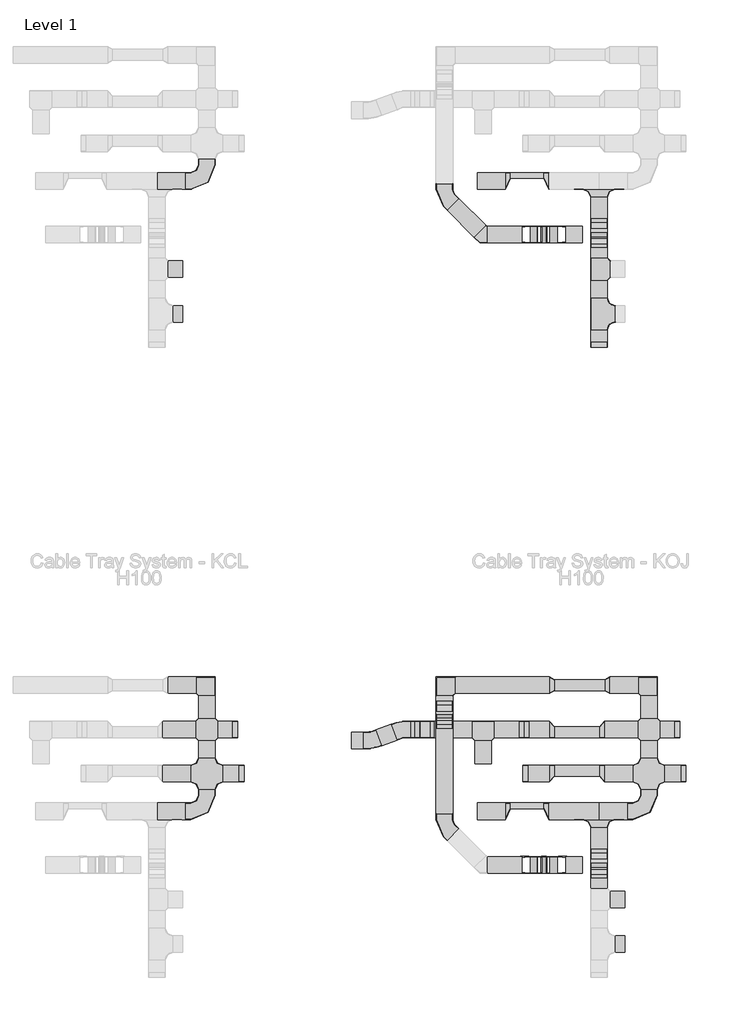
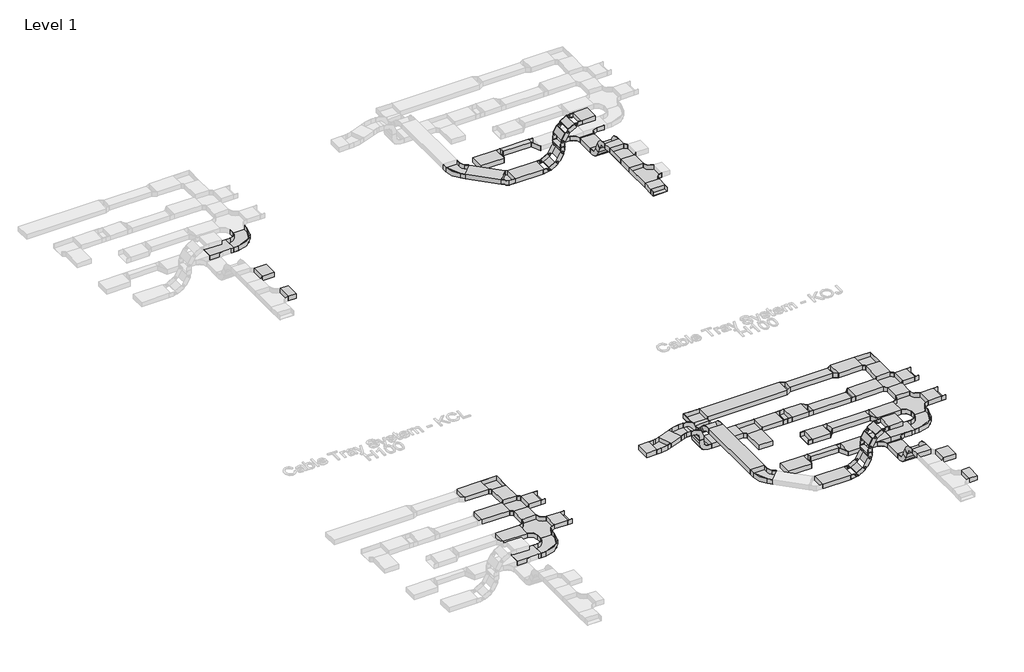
# One storey, part 23 of 106: 70 cable carrier fittings, 55 cable carrier segments.
"""IFC4 building model written with IfcOpenShell, lengths in millimetres."""

from ifc_helpers import new_model, si_unit, frame, origin, place, context, project, spatial, polyline, outline, extrude, transform, mapped, element, save
from components import cable_carrier_fitting_cb057536, cable_carrier_fitting_d4f283aa, cable_carrier_fitting_389af67d, cable_carrier_fitting_ab346bf8, cable_carrier_fitting_c163f1ca, cable_carrier_fitting_32826c86, cable_carrier_fitting_42195290, cable_carrier_fitting_5f227b89, cable_carrier_fitting_7ef83dec, cable_carrier_fitting_1d3f857e, cable_carrier_fitting_24d58ad9, cable_carrier_fitting_81c76d70, cable_carrier_fitting_e69bf5bc, cable_carrier_fitting_b7b75895, cable_carrier_fitting_0afdfe74, cable_carrier_fitting_3a6d649d, cable_carrier_fitting_2d5aa353, cable_carrier_fitting_83230dc4, cable_carrier_fitting_3cbe9e62, cable_carrier_fitting_c86838e9, cable_carrier_fitting_21169ac5, cable_carrier_fitting_985dcf24, cable_carrier_fitting_0a0ebc2e, cable_carrier_fitting_46bfce34, cable_carrier_fitting_f50788b4, cable_carrier_fitting_851eb94e, cable_carrier_fitting_844d2b92, cable_carrier_fitting_c0e00dde

model = new_model("IFC4")

# Units and contexts
model_context = context("Model", 3, world=origin())
ifc_project = project(units=[si_unit("LENGTHUNIT", "METRE", prefix="MILLI")], contexts=[model_context])

# Site, building, storey
site = spatial("IfcSite", under=ifc_project)
building = spatial("IfcBuilding", under=site)
storey = spatial("IfcBuildingStorey", under=building, Name="Level 1", Elevation=0.0)

# Cable carrier fittings
placement = place(None, origin())
cable_carrier_fitting_shape = cable_carrier_fitting_cb057536(model_context)
element("IfcCableCarrierFitting", 1, ObjectType="BAKS_BEND_Adjustable vertical bend element_EL : ELP_H100", at=placement, inside=storey, context=model_context, shape_type="MappedRepresentation", body=[
    mapped(cable_carrier_fitting_shape, transform((166633.2340999, 54731.3714214, 322.7153903), x_axis=(0.4999999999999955, 0.0, 0.8660254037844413), y_axis=(0.0, 1.0, 0.0), z_axis=(-0.8660254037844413, 0.0, 0.4999999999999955))),
])
element("IfcCableCarrierFitting", 2, ObjectType="BAKS_BEND_Adjustable vertical bend element_EL : ELP_H100", at=placement, inside=storey, context=model_context, shape_type="MappedRepresentation", body=[
    mapped(cable_carrier_fitting_shape, transform((166436.5219776, 54731.3714214, 223.0), x_axis=(0.8660254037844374, 0.0, 0.5000000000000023), y_axis=(0.0, 1.0, 0.0), z_axis=(-0.5000000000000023, 0.0, 0.8660254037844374))),
])
element("IfcCableCarrierFitting", 3, ObjectType="BAKS_BEND_Adjustable vertical bend element_EL : ELP_H100", at=placement, inside=storey, context=model_context, shape_type="MappedRepresentation", body=[
    mapped(cable_carrier_fitting_shape, transform((166841.4494902, 54731.3714214, 936.9011537), x_axis=(0.8660254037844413, 0.0, 0.4999999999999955), y_axis=(0.0, -1.0, 0.0), z_axis=(0.4999999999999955, 0.0, -0.8660254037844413))),
])
element("IfcCableCarrierFitting", 4, ObjectType="BAKS_BEND_Adjustable vertical bend element_EL : ELP_H100", at=placement, inside=storey, context=model_context, shape_type="MappedRepresentation", body=[
    mapped(cable_carrier_fitting_shape, transform((166741.7340999, 54731.3714214, 740.1890314), x_axis=(0.5000000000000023, 0.0, 0.8660254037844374), y_axis=(0.0, -1.0, 0.0), z_axis=(0.8660254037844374, 0.0, -0.5000000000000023))),
])
element("IfcCableCarrierFitting", 5, ObjectType="BAKS_BEND_Adjustable vertical bend element_EL : ELP_H100", at=placement, inside=storey, context=model_context, shape_type="MappedRepresentation", body=[
    mapped(cable_carrier_fitting_shape, transform((166633.2340999, 43331.3714214, 322.7153903), x_axis=(0.4999999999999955, 0.0, 0.8660254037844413), y_axis=(0.0, 1.0, 0.0), z_axis=(-0.8660254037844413, 0.0, 0.4999999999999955))),
])
element("IfcCableCarrierFitting", 6, ObjectType="BAKS_BEND_Adjustable vertical bend element_EL : ELP_H100", at=placement, inside=storey, context=model_context, shape_type="MappedRepresentation", body=[
    mapped(cable_carrier_fitting_shape, transform((166436.5219776, 43331.3714214, 223.0), x_axis=(0.8660254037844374, 0.0, 0.5000000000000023), y_axis=(0.0, 1.0, 0.0), z_axis=(-0.5000000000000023, 0.0, 0.8660254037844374))),
])
element("IfcCableCarrierFitting", 7, ObjectType="BAKS_BEND_Adjustable vertical bend element_EL : ELP_H100", at=placement, inside=storey, context=model_context, shape_type="MappedRepresentation", body=[
    mapped(cable_carrier_fitting_shape, transform((166841.4494902, 43331.3714214, 936.9011537), x_axis=(0.8660254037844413, 0.0, 0.4999999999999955), y_axis=(0.0, -1.0, 0.0), z_axis=(0.4999999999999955, 0.0, -0.8660254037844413))),
])
element("IfcCableCarrierFitting", 8, ObjectType="BAKS_BEND_Adjustable vertical bend element_EL : ELP_H100", at=placement, inside=storey, context=model_context, shape_type="MappedRepresentation", body=[
    mapped(cable_carrier_fitting_shape, transform((166741.7340999, 43331.3714214, 740.1890314), x_axis=(0.5000000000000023, 0.0, 0.8660254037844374), y_axis=(0.0, -1.0, 0.0), z_axis=(0.8660254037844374, 0.0, -0.5000000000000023))),
])
cable_carrier_fitting_2_shape = cable_carrier_fitting_d4f283aa(model_context)
element("IfcCableCarrierFitting", 9, ObjectType="BAKS_Reducer : RK(S/L/P)J_H100", at=placement, inside=storey, context=model_context, shape_type="MappedRepresentation", body=[
    mapped(cable_carrier_fitting_2_shape, transform((161211.8329462, 45780.8714214, 0.0), x_axis=(-1.0, 0.0, 0.0), y_axis=(0.0, -1.0, 0.0), z_axis=(0.0, 0.0, 1.0))),
])
element("IfcCableCarrierFitting", 10, ObjectType="BAKS_Reducer : RK(S/L/P)J_H100", at=placement, inside=storey, context=model_context, shape_type="MappedRepresentation", body=[
    mapped(cable_carrier_fitting_2_shape, transform((161325.8329462, 44980.8714214, 0.0), x_axis=(-1.0, 0.0, 0.0), y_axis=(0.0, -1.0, 0.0), z_axis=(0.0, 0.0, 1.0))),
])
element("IfcCableCarrierFitting", 11, ObjectType="BAKS_Reducer : RK(S/L/P)J_H100", at=placement, inside=storey, context=model_context, shape_type="MappedRepresentation", body=[
    mapped(cable_carrier_fitting_2_shape, transform((166399.3329462, 45780.8714214, 0.0), x_axis=(1.0, 0.0, 0.0), y_axis=(0.0, 1.0, 0.0), z_axis=(0.0, 0.0, 1.0))),
])
element("IfcCableCarrierFitting", 12, ObjectType="BAKS_Reducer : RK(S/L/P)J_H100", at=placement, inside=storey, context=model_context, shape_type="MappedRepresentation", body=[
    mapped(cable_carrier_fitting_2_shape, transform((166399.3329462, 45780.8714214, 0.0), x_axis=(-1.0, 0.0, 0.0), y_axis=(0.0, -1.0, 0.0), z_axis=(0.0, 0.0, 1.0))),
])
element("IfcCableCarrierFitting", 13, ObjectType="BAKS_Reducer : RK(S/L/P)J_H100", at=placement, inside=storey, context=model_context, shape_type="MappedRepresentation", body=[
    mapped(cable_carrier_fitting_2_shape, transform((166377.8329462, 44980.8714214, 0.0), x_axis=(1.0, 0.0, 0.0), y_axis=(0.0, 1.0, 0.0), z_axis=(0.0, 0.0, 1.0))),
])
element("IfcCableCarrierFitting", 14, ObjectType="BAKS_Reducer : RK(S/L/P)J_H100", at=placement, inside=storey, context=model_context, shape_type="MappedRepresentation", body=[
    mapped(cable_carrier_fitting_2_shape, transform((169211.8329462, 45780.8714214, 0.0), x_axis=(-1.0, 0.0, 0.0), y_axis=(0.0, -1.0, 0.0), z_axis=(0.0, 0.0, 1.0))),
])
element("IfcCableCarrierFitting", 15, ObjectType="BAKS_Reducer : RK(S/L/P)J_H100", at=placement, inside=storey, context=model_context, shape_type="MappedRepresentation", body=[
    mapped(cable_carrier_fitting_2_shape, transform((169325.8329462, 44980.8714214, 0.0), x_axis=(-1.0, 0.0, 0.0), y_axis=(0.0, -1.0, 0.0), z_axis=(0.0, 0.0, 1.0))),
])
cable_carrier_fitting_3_shape = cable_carrier_fitting_389af67d(model_context)
element("IfcCableCarrierFitting", 16, ObjectType="BAKS_Reducer : RK(S/L/P)J_H100", at=placement, inside=storey, context=model_context, shape_type="MappedRepresentation", body=[
    mapped(cable_carrier_fitting_3_shape, transform((166856.8329462, 46580.8714214, 0.0), x_axis=(1.0, 0.0, 0.0), y_axis=(0.0, 1.0, 0.0), z_axis=(0.0, 0.0, 1.0))),
])
cable_carrier_fitting_4_shape = cable_carrier_fitting_ab346bf8(model_context)
element("IfcCableCarrierFitting", 17, ObjectType="BAKS_Reducer : RK(S/L/P)J_H100", at=placement, inside=storey, context=model_context, shape_type="MappedRepresentation", body=[
    mapped(cable_carrier_fitting_4_shape, transform((167856.8329462, 46580.8714214, 0.0), x_axis=(1.0, 0.0, 0.0), y_axis=(0.0, 1.0, 0.0), z_axis=(0.0, 0.0, 1.0))),
])
cable_carrier_fitting_5_shape = cable_carrier_fitting_c163f1ca(model_context)
element("IfcCableCarrierFitting", 18, ObjectType="BAKS_Reducer : RK(S/L/P)J_H100", at=placement, inside=storey, context=model_context, shape_type="MappedRepresentation", body=[
    mapped(cable_carrier_fitting_5_shape, transform((167761.8329462, 45730.8714214, 0.0), x_axis=(1.0, 0.0, 0.0), y_axis=(0.0, 1.0, 0.0), z_axis=(0.0, 0.0, 1.0))),
])
element("IfcCableCarrierFitting", 19, ObjectType="BAKS_Reducer : RK(S/L/P)J_H100", at=placement, inside=storey, context=model_context, shape_type="MappedRepresentation", body=[
    mapped(cable_carrier_fitting_5_shape, transform((166951.8329462, 45030.8714214, 0.0), x_axis=(-1.0, 0.0, 0.0), y_axis=(0.0, -1.0, 0.0), z_axis=(0.0, 0.0, 1.0))),
])
cable_carrier_fitting_6_shape = cable_carrier_fitting_32826c86(model_context)
element("IfcCableCarrierFitting", 20, ObjectType="BAKS_Reducer : RK(S/L/P)J_H100", at=placement, inside=storey, context=model_context, shape_type="MappedRepresentation", body=[
    mapped(cable_carrier_fitting_6_shape, transform((166951.8329462, 45730.8714214, 0.0), x_axis=(-1.0, 0.0, 0.0), y_axis=(0.0, -1.0, 0.0), z_axis=(0.0, 0.0, 1.0))),
])
element("IfcCableCarrierFitting", 21, ObjectType="BAKS_Reducer : RK(S/L/P)J_H100", at=placement, inside=storey, context=model_context, shape_type="MappedRepresentation", body=[
    mapped(cable_carrier_fitting_6_shape, transform((167761.8329462, 45030.8714214, 0.0), x_axis=(1.0, 0.0, 0.0), y_axis=(0.0, 1.0, 0.0), z_axis=(0.0, 0.0, 1.0))),
])
cable_carrier_fitting_7_shape = cable_carrier_fitting_42195290(model_context)
element("IfcCableCarrierFitting", 22, ObjectType="BAKS_Horizontal bend : KKJ/KKMJ_H100", at=placement, inside=storey, context=model_context, shape_type="MappedRepresentation", body=[
    mapped(cable_carrier_fitting_7_shape, transform((160656.8329462, 46580.8714214, 0.0), x_axis=(0.0, 1.0, 0.0), y_axis=(-1.0, 0.0, 0.0), z_axis=(0.0, 0.0, 1.0))),
])
element("IfcCableCarrierFitting", 23, ObjectType="BAKS_Horizontal bend : KKJ/KKMJ_H100", at=placement, inside=storey, context=model_context, shape_type="MappedRepresentation", body=[
    mapped(cable_carrier_fitting_7_shape, transform((168656.8329462, 46580.8714214, 0.0), x_axis=(0.0, 1.0, 0.0), y_axis=(-1.0, 0.0, 0.0), z_axis=(0.0, 0.0, 1.0))),
])
element("IfcCableCarrierFitting", 24, ObjectType="BAKS_Horizontal bend : KKJ/KKMJ_H100", at=placement, inside=storey, context=model_context, shape_type="MappedRepresentation", body=[
    mapped(cable_carrier_fitting_7_shape, transform((164956.8329462, 46580.8714214, 0.0), x_axis=(-1.0, 0.0, 0.0), y_axis=(0.0, -1.0, 0.0), z_axis=(0.0, 0.0, 1.0))),
])
cable_carrier_fitting_8_shape = cable_carrier_fitting_5f227b89(model_context)
element("IfcCableCarrierFitting", 25, ObjectType="BAKS_Horizontal cross over : CZKJ_H100", at=placement, inside=storey, context=model_context, shape_type="MappedRepresentation", body=[
    mapped(cable_carrier_fitting_8_shape, transform((160656.8329462, 45780.8714214, 0.0), x_axis=(0.0, -1.0, 0.0), y_axis=(1.0, 0.0, 0.0), z_axis=(0.0, 0.0, 1.0))),
])
element("IfcCableCarrierFitting", 26, ObjectType="BAKS_Horizontal cross over : CZKJ_H100", at=placement, inside=storey, context=model_context, shape_type="MappedRepresentation", body=[
    mapped(cable_carrier_fitting_8_shape, transform((168656.8329462, 45780.8714214, 0.0), x_axis=(0.0, -1.0, 0.0), y_axis=(1.0, 0.0, 0.0), z_axis=(0.0, 0.0, 1.0))),
])
cable_carrier_fitting_9_shape = cable_carrier_fitting_7ef83dec(model_context)
element("IfcCableCarrierFitting", 27, ObjectType="BAKS_Horizontal cross over radius : CZKPJ_H100", at=placement, inside=storey, context=model_context, shape_type="MappedRepresentation", body=[
    mapped(cable_carrier_fitting_9_shape, transform((160656.8329462, 44980.8714214, 0.0), x_axis=(0.0, -1.0, 0.0), y_axis=(1.0, 0.0, 0.0), z_axis=(0.0, 0.0, 1.0))),
])
element("IfcCableCarrierFitting", 28, ObjectType="BAKS_Horizontal cross over radius : CZKPJ_H100", at=placement, inside=storey, context=model_context, shape_type="MappedRepresentation", body=[
    mapped(cable_carrier_fitting_9_shape, transform((168656.8329462, 44980.8714214, 0.0), x_axis=(0.0, -1.0, 0.0), y_axis=(1.0, 0.0, 0.0), z_axis=(0.0, 0.0, 1.0))),
])
cable_carrier_fitting_10_shape = cable_carrier_fitting_1d3f857e(model_context)
element("IfcCableCarrierFitting", 29, ObjectType="BAKS_Horizontal bend radius : KKPJ/KKMPJ_H100", at=placement, inside=storey, context=model_context, shape_type="MappedRepresentation", body=[
    mapped(cable_carrier_fitting_10_shape, transform((164956.8329462, 44030.8714214, 235.0), x_axis=(0.0, -1.0, 0.0), y_axis=(1.0, 0.0, 0.0), z_axis=(0.0, 0.0, 1.0))),
])
cable_carrier_fitting_11_shape = cable_carrier_fitting_24d58ad9(model_context)
element("IfcCableCarrierFitting", 30, ObjectType="BAKS_Horizontal bend radius : KKPJ/KKMPJ_H100", at=placement, inside=storey, context=model_context, shape_type="MappedRepresentation", body=[
    mapped(cable_carrier_fitting_11_shape, transform((160656.8329462, 55699.8714214, 0.0), x_axis=(1.0, 0.0, 0.0), y_axis=(0.0, 1.0, 0.0), z_axis=(0.0, 0.0, 1.0))),
])
element("IfcCableCarrierFitting", 31, ObjectType="BAKS_Horizontal bend radius : KKPJ/KKMPJ_H100", at=placement, inside=storey, context=model_context, shape_type="MappedRepresentation", body=[
    mapped(cable_carrier_fitting_11_shape, transform((160656.8329462, 44299.8714214, 0.0), x_axis=(1.0, 0.0, 0.0), y_axis=(0.0, 1.0, 0.0), z_axis=(0.0, 0.0, 1.0))),
])
element("IfcCableCarrierFitting", 32, ObjectType="BAKS_Horizontal bend radius : KKPJ/KKMPJ_H100", at=placement, inside=storey, context=model_context, shape_type="MappedRepresentation", body=[
    mapped(cable_carrier_fitting_11_shape, transform((168656.8329462, 44299.8714214, 0.0), x_axis=(1.0, 0.0, 0.0), y_axis=(0.0, 1.0, 0.0), z_axis=(0.0, 0.0, 1.0))),
])
cable_carrier_fitting_12_shape = cable_carrier_fitting_81c76d70(model_context)
element("IfcCableCarrierFitting", 33, ObjectType="BAKS_Horizontal addon tee : TKDJ_H100", at=placement, inside=storey, context=model_context, shape_type="MappedRepresentation", body=[
    mapped(cable_carrier_fitting_12_shape, transform((167753.8329462, 55699.8714214, 0.0), x_axis=(1.0, 0.0, 0.0), y_axis=(0.0, 1.0, 0.0), z_axis=(0.0, 0.0, 1.0))),
])
element("IfcCableCarrierFitting", 34, ObjectType="BAKS_Horizontal addon tee : TKDJ_H100", at=placement, inside=storey, context=model_context, shape_type="MappedRepresentation", body=[
    mapped(cable_carrier_fitting_12_shape, transform((167753.8329462, 44299.8714214, 0.0), x_axis=(1.0, 0.0, 0.0), y_axis=(0.0, 1.0, 0.0), z_axis=(0.0, 0.0, 1.0))),
])
cable_carrier_fitting_13_shape = cable_carrier_fitting_e69bf5bc(model_context)
element("IfcCableCarrierFitting", 35, ObjectType="BAKS_Reducer : RK(S/L/P)J_H100", at=placement, inside=storey, context=model_context, shape_type="MappedRepresentation", body=[
    mapped(cable_carrier_fitting_13_shape, transform((166750.8329462, 44399.8714214, 0.0), x_axis=(1.0, 0.0, 0.0), y_axis=(0.0, 1.0, 0.0), z_axis=(0.0, 0.0, 1.0))),
])
cable_carrier_fitting_14_shape = cable_carrier_fitting_b7b75895(model_context)
element("IfcCableCarrierFitting", 36, ObjectType="BAKS_Reducer : RK(S/L/P)J_H100", at=placement, inside=storey, context=model_context, shape_type="MappedRepresentation", body=[
    mapped(cable_carrier_fitting_14_shape, transform((166152.8329462, 44399.8714214, 0.0), x_axis=(-1.0, 0.0, 0.0), y_axis=(0.0, -1.0, 0.0), z_axis=(0.0, 0.0, 1.0))),
])
cable_carrier_fitting_15_shape = cable_carrier_fitting_0afdfe74(model_context)
element("IfcCableCarrierFitting", 37, ObjectType="BAKS_Horizontal tee : TKJ_H100", at=placement, inside=storey, context=model_context, shape_type="MappedRepresentation", body=[
    mapped(cable_carrier_fitting_15_shape, transform((165656.3329462, 45780.8714214, 0.0), x_axis=(1.0, 0.0, 0.0), y_axis=(0.0, 1.0, 0.0), z_axis=(0.0, 0.0, 1.0))),
])
cable_carrier_fitting_16_shape = cable_carrier_fitting_3a6d649d(model_context)
element("IfcCableCarrierFitting", 38, ObjectType="BAKS_Horizontal bend radius : KKPJ/KKMPJ_H100", at=placement, inside=storey, context=model_context, shape_type="MappedRepresentation", body=[
    mapped(cable_carrier_fitting_16_shape, transform((164186.1981218, 45780.8714214, 438.0), x_axis=(-1.0, 0.0, 0.0), y_axis=(0.0, -1.0, 0.0), z_axis=(0.0, 0.0, 1.0))),
])
element("IfcCableCarrierFitting", 39, ObjectType="BAKS_Horizontal bend radius : KKPJ/KKMPJ_H100", at=placement, inside=storey, context=model_context, shape_type="MappedRepresentation", body=[
    mapped(cable_carrier_fitting_16_shape, transform((163630.7130894, 45578.691404, 438.0), x_axis=(1.0, 0.0, 0.0), y_axis=(0.0, 1.0, 0.0), z_axis=(0.0, 0.0, 1.0))),
])
cable_carrier_fitting_17_shape = cable_carrier_fitting_2d5aa353(model_context)
element("IfcCableCarrierFitting", 40, ObjectType="BAKS_BEND_Articulated connector_LGP : LGP_H100", at=placement, inside=storey, context=model_context, shape_type="MappedRepresentation", body=[
    mapped(cable_carrier_fitting_17_shape, transform((166457.3065873, 54581.3714214, 235.0), x_axis=(1.0, 0.0, 0.0), y_axis=(0.0, 0.0, 1.0), z_axis=(0.0, -1.0, 0.0))),
])
element("IfcCableCarrierFitting", 41, ObjectType="BAKS_BEND_Articulated connector_LGP : LGP_H100", at=placement, inside=storey, context=model_context, shape_type="MappedRepresentation", body=[
    mapped(cable_carrier_fitting_17_shape, transform((166753.7340999, 54881.3714214, 760.9736411), x_axis=(0.0, 0.0, 1.0), y_axis=(1.0, 0.0, 0.0), z_axis=(0.0, 1.0, 0.0))),
])
element("IfcCableCarrierFitting", 42, ObjectType="BAKS_BEND_Articulated connector_LGP : LGP_H100", at=placement, inside=storey, context=model_context, shape_type="MappedRepresentation", body=[
    mapped(cable_carrier_fitting_17_shape, transform((166457.3065873, 43181.3714214, 235.0), x_axis=(1.0, 0.0, 0.0), y_axis=(0.0, 0.0, 1.0), z_axis=(0.0, -1.0, 0.0))),
])
element("IfcCableCarrierFitting", 43, ObjectType="BAKS_BEND_Articulated connector_LGP : LGP_H100", at=placement, inside=storey, context=model_context, shape_type="MappedRepresentation", body=[
    mapped(cable_carrier_fitting_17_shape, transform((166753.7340999, 43481.3714214, 760.9736411), x_axis=(0.0, 0.0, 1.0), y_axis=(1.0, 0.0, 0.0), z_axis=(0.0, 1.0, 0.0))),
])
cable_carrier_fitting_18_shape = cable_carrier_fitting_83230dc4(model_context)
element("IfcCableCarrierFitting", 44, ObjectType="BAKS_BEND_Articulated connector_LGP : LGP_H100", at=placement, inside=storey, context=model_context, shape_type="MappedRepresentation", body=[
    mapped(cable_carrier_fitting_18_shape, transform((166753.7340999, 54581.3714214, 531.4275126), x_axis=(0.4999999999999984, 0.0, 0.8660254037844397), y_axis=(-0.8660254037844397, 0.0, 0.4999999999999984), z_axis=(0.0, -1.0, 0.0))),
])
element("IfcCableCarrierFitting", 45, ObjectType="BAKS_BEND_Articulated connector_LGP : LGP_H100", at=placement, inside=storey, context=model_context, shape_type="MappedRepresentation", body=[
    mapped(cable_carrier_fitting_18_shape, transform((167050.1616126, 54881.3714214, 1057.4011537), x_axis=(0.8660254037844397, 0.0, 0.4999999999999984), y_axis=(0.4999999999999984, 0.0, -0.8660254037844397), z_axis=(0.0, 1.0, 0.0))),
])
element("IfcCableCarrierFitting", 46, ObjectType="BAKS_BEND_Articulated connector_LGP : LGP_H100", at=placement, inside=storey, context=model_context, shape_type="MappedRepresentation", body=[
    mapped(cable_carrier_fitting_18_shape, transform((166753.7340999, 43181.3714214, 531.4275126), x_axis=(0.4999999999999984, 0.0, 0.8660254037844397), y_axis=(-0.8660254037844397, 0.0, 0.4999999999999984), z_axis=(0.0, -1.0, 0.0))),
])
element("IfcCableCarrierFitting", 47, ObjectType="BAKS_BEND_Articulated connector_LGP : LGP_H100", at=placement, inside=storey, context=model_context, shape_type="MappedRepresentation", body=[
    mapped(cable_carrier_fitting_18_shape, transform((167050.1616126, 43481.3714214, 1057.4011537), x_axis=(0.8660254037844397, 0.0, 0.4999999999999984), y_axis=(0.4999999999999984, 0.0, -0.8660254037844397), z_axis=(0.0, 1.0, 0.0))),
])
cable_carrier_fitting_19_shape = cable_carrier_fitting_3cbe9e62(model_context)
element("IfcCableCarrierFitting", 48, ObjectType="BAKS_BEND_Articulated connector_LGP : LGP_H100", at=placement, inside=storey, context=model_context, shape_type="MappedRepresentation", body=[
    mapped(cable_carrier_fitting_19_shape, transform((166753.7340999, 54881.3714214, 531.4275126), x_axis=(0.4999999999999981, 0.0, 0.8660254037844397), y_axis=(0.8660254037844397, 0.0, -0.4999999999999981), z_axis=(0.0, 1.0, 0.0))),
])
element("IfcCableCarrierFitting", 49, ObjectType="BAKS_BEND_Articulated connector_LGP : LGP_H100", at=placement, inside=storey, context=model_context, shape_type="MappedRepresentation", body=[
    mapped(cable_carrier_fitting_19_shape, transform((167050.1616126, 54581.3714214, 1057.4011537), x_axis=(0.8660254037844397, 0.0, 0.4999999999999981), y_axis=(-0.4999999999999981, 0.0, 0.8660254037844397), z_axis=(0.0, -1.0, 0.0))),
])
element("IfcCableCarrierFitting", 50, ObjectType="BAKS_BEND_Articulated connector_LGP : LGP_H100", at=placement, inside=storey, context=model_context, shape_type="MappedRepresentation", body=[
    mapped(cable_carrier_fitting_19_shape, transform((166753.7340999, 43481.3714214, 531.4275126), x_axis=(0.4999999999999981, 0.0, 0.8660254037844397), y_axis=(0.8660254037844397, 0.0, -0.4999999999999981), z_axis=(0.0, 1.0, 0.0))),
])
element("IfcCableCarrierFitting", 51, ObjectType="BAKS_BEND_Articulated connector_LGP : LGP_H100", at=placement, inside=storey, context=model_context, shape_type="MappedRepresentation", body=[
    mapped(cable_carrier_fitting_19_shape, transform((167050.1616126, 43181.3714214, 1057.4011537), x_axis=(0.8660254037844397, 0.0, 0.4999999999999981), y_axis=(-0.4999999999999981, 0.0, 0.8660254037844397), z_axis=(0.0, -1.0, 0.0))),
])
cable_carrier_fitting_20_shape = cable_carrier_fitting_c86838e9(model_context)
element("IfcCableCarrierFitting", 52, ObjectType="BAKS_BEND_Articulated connector_LGP : LGP_H100", at=placement, inside=storey, context=model_context, shape_type="MappedRepresentation", body=[
    mapped(cable_carrier_fitting_20_shape, transform((166457.3065873, 54881.3714214, 235.0), x_axis=(1.0, 0.0, 0.0), y_axis=(0.0, 0.0, -1.0), z_axis=(0.0, 1.0, 0.0))),
])
element("IfcCableCarrierFitting", 53, ObjectType="BAKS_BEND_Articulated connector_LGP : LGP_H100", at=placement, inside=storey, context=model_context, shape_type="MappedRepresentation", body=[
    mapped(cable_carrier_fitting_20_shape, transform((166753.7340999, 54581.3714214, 760.9736411), x_axis=(0.0, 0.0, 1.0), y_axis=(-1.0, 0.0, 0.0), z_axis=(0.0, -1.0, 0.0))),
])
element("IfcCableCarrierFitting", 54, ObjectType="BAKS_BEND_Articulated connector_LGP : LGP_H100", at=placement, inside=storey, context=model_context, shape_type="MappedRepresentation", body=[
    mapped(cable_carrier_fitting_20_shape, transform((166457.3065873, 43481.3714214, 235.0), x_axis=(1.0, 0.0, 0.0), y_axis=(0.0, 0.0, -1.0), z_axis=(0.0, 1.0, 0.0))),
])
element("IfcCableCarrierFitting", 55, ObjectType="BAKS_BEND_Articulated connector_LGP : LGP_H100", at=placement, inside=storey, context=model_context, shape_type="MappedRepresentation", body=[
    mapped(cable_carrier_fitting_20_shape, transform((166753.7340999, 43181.3714214, 760.9736411), x_axis=(0.0, 0.0, 1.0), y_axis=(-1.0, 0.0, 0.0), z_axis=(0.0, -1.0, 0.0))),
])
element("IfcCableCarrierFitting", 56, ObjectType="BAKS_Horizontal bend radius : KKPP/KKMPP_H100", at=placement, inside=storey, context=model_context, shape_type="MappedRepresentation", body=[
    mapped(cable_carrier_fitting_10_shape, transform((164956.8329462, 55430.8714214, 235.0), x_axis=(0.0, -1.0, 0.0), y_axis=(1.0, 0.0, 0.0), z_axis=(0.0, 0.0, 1.0))),
])
element("IfcCableCarrierFitting", 57, ObjectType="BAKS_Reducer : RK(S/L/P)P_H100", at=placement, inside=storey, context=model_context, shape_type="MappedRepresentation", body=[
    mapped(cable_carrier_fitting_2_shape, transform((167753.8329462, 52694.2974728, 432.5277378), x_axis=(0.0, 1.0, 0.0), y_axis=(-1.0, 0.0, 0.0), z_axis=(0.0, 0.0, 1.0))),
])
element("IfcCableCarrierFitting", 58, ObjectType="BAKS_Reducer : RK(S/L/P)P_H100", at=placement, inside=storey, context=model_context, shape_type="MappedRepresentation", body=[
    mapped(cable_carrier_fitting_13_shape, transform((166750.8329462, 55799.8714214, 0.0), x_axis=(1.0, 0.0, 0.0), y_axis=(0.0, 1.0, 0.0), z_axis=(0.0, 0.0, 1.0))),
])
element("IfcCableCarrierFitting", 59, ObjectType="BAKS_Reducer : RK(S/L/P)P_H100", at=placement, inside=storey, context=model_context, shape_type="MappedRepresentation", body=[
    mapped(cable_carrier_fitting_14_shape, transform((166152.8329462, 55799.8714214, 0.0), x_axis=(-1.0, 0.0, 0.0), y_axis=(0.0, -1.0, 0.0), z_axis=(0.0, 0.0, 1.0))),
])
cable_carrier_fitting_21_shape = cable_carrier_fitting_21169ac5(model_context)
element("IfcCableCarrierFitting", 60, ObjectType="BAKS_Horizontal tee radius : TKPP_H100", at=placement, inside=storey, context=model_context, shape_type="MappedRepresentation", body=[
    mapped(cable_carrier_fitting_21_shape, transform((167753.8329462, 53296.5802898, 432.5277378), x_axis=(0.0, 1.0, 0.0), y_axis=(-1.0, 0.0, 0.0), z_axis=(0.0, 0.0, 1.0))),
])
element("IfcCableCarrierFitting", 61, ObjectType="BAKS_Horizontal tee : TKP_H100", at=placement, inside=storey, context=model_context, shape_type="MappedRepresentation", body=[
    mapped(cable_carrier_fitting_15_shape, transform((167753.8329462, 54103.8631068, 432.5277378), x_axis=(0.0, 1.0, 0.0), y_axis=(-1.0, 0.0, 0.0), z_axis=(0.0, 0.0, 1.0))),
])
cable_carrier_fitting_22_shape = cable_carrier_fitting_985dcf24(model_context)
element("IfcCableCarrierFitting", 62, ObjectType="BAKS_Horizontal bend : KKP/KKMP_H100", at=placement, inside=storey, context=model_context, shape_type="MappedRepresentation", body=[
    mapped(cable_carrier_fitting_22_shape, transform((165656.3329462, 54731.3714214, 235.0), x_axis=(0.707106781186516, -0.707106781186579, 0.0), y_axis=(0.707106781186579, 0.707106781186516, 0.0), z_axis=(0.0, 0.0, 1.0))),
])
cable_carrier_fitting_23_shape = cable_carrier_fitting_0a0ebc2e(model_context)
element("IfcCableCarrierFitting", 63, ObjectType="BAKS_KK_Vertical bend INTERNAL_LU : LUNJ_H100", at=placement, inside=storey, context=model_context, shape_type="MappedRepresentation", body=[
    mapped(cable_carrier_fitting_23_shape, transform((164556.3329462, 45780.8714214, 438.0), x_axis=(0.0, 0.0, 1.0), y_axis=(-1.0, 0.0, 0.0), z_axis=(0.0, -1.0, 0.0))),
])
cable_carrier_fitting_24_shape = cable_carrier_fitting_46bfce34(model_context)
element("IfcCableCarrierFitting", 64, ObjectType="BAKS_KK_Vertical bend EXTERNAL_LU : LUNJ_H100", at=placement, inside=storey, context=model_context, shape_type="MappedRepresentation", body=[
    mapped(cable_carrier_fitting_24_shape, transform((164556.3329462, 45780.8714214, 0.0), x_axis=(-1.0, 0.0, 0.0), y_axis=(0.0, 0.0, 1.0), z_axis=(0.0, 1.0, 0.0))),
])
cable_carrier_fitting_25_shape = cable_carrier_fitting_f50788b4(model_context)
element("IfcCableCarrierFitting", 65, ObjectType="BAKS_KK_Vertical bend EXTERNAL_LU : LUMNJ_H100", at=placement, inside=storey, context=model_context, shape_type="MappedRepresentation", body=[
    mapped(cable_carrier_fitting_25_shape, transform((167753.8329462, 54858.7056523, 0.0), x_axis=(0.0, -1.0, 0.0), y_axis=(0.0, 0.0, 1.0), z_axis=(-1.0, 0.0, 0.0))),
])
element("IfcCableCarrierFitting", 66, ObjectType="BAKS_KK_Vertical bend EXTERNAL_LU : LUMNJ_H100", at=placement, inside=storey, context=model_context, shape_type="MappedRepresentation", body=[
    mapped(cable_carrier_fitting_25_shape, transform((167753.8329462, 43458.7056523, 0.0), x_axis=(0.0, -1.0, 0.0), y_axis=(0.0, 0.0, 1.0), z_axis=(-1.0, 0.0, 0.0))),
])
cable_carrier_fitting_26_shape = cable_carrier_fitting_851eb94e(model_context)
element("IfcCableCarrierFitting", 67, ObjectType="BAKS_KK_Vertical bend EXTERNAL_LU : LUMNJ_H100", at=placement, inside=storey, context=model_context, shape_type="MappedRepresentation", body=[
    mapped(cable_carrier_fitting_26_shape, transform((164956.8329462, 46160.8714214, 0.0), x_axis=(0.0, -1.0, 0.0), y_axis=(0.0, 0.0, 1.0), z_axis=(-1.0, 0.0, 0.0))),
])
cable_carrier_fitting_27_shape = cable_carrier_fitting_844d2b92(model_context)
element("IfcCableCarrierFitting", 68, ObjectType="BAKS_KK_Vertical bend INTERNAL_LU : LUMNJ_H100", at=placement, inside=storey, context=model_context, shape_type="MappedRepresentation", body=[
    mapped(cable_carrier_fitting_27_shape, transform((167753.8329462, 54657.0146558, 432.5277378), x_axis=(0.0, -0.42261826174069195, 0.9063077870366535), y_axis=(0.0, -0.9063077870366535, -0.42261826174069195), z_axis=(1.0, 0.0, 0.0))),
])
element("IfcCableCarrierFitting", 69, ObjectType="BAKS_KK_Vertical bend INTERNAL_LU : LUMNJ_H100", at=placement, inside=storey, context=model_context, shape_type="MappedRepresentation", body=[
    mapped(cable_carrier_fitting_27_shape, transform((167753.8329462, 43257.0146558, 432.5277378), x_axis=(0.0, -0.42261826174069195, 0.9063077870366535), y_axis=(0.0, -0.9063077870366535, -0.42261826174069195), z_axis=(1.0, 0.0, 0.0))),
])
cable_carrier_fitting_28_shape = cable_carrier_fitting_c0e00dde(model_context)
element("IfcCableCarrierFitting", 70, ObjectType="BAKS_KK_Vertical bend INTERNAL_LU : LUMNJ_H100", at=placement, inside=storey, context=model_context, shape_type="MappedRepresentation", body=[
    mapped(cable_carrier_fitting_28_shape, transform((164956.8329462, 45925.8714214, 235.0), x_axis=(0.0, 1.0, 0.0), y_axis=(0.0, 0.0, -1.0), z_axis=(-1.0, 0.0, 0.0))),
])

# Cable carrier segments
element("IfcCableCarrierSegment", 71, ObjectType="BAKS - Cable tray H100 (KBL)", at=placement, inside=storey, context=model_context, shape_type="SweptSolid", body=[
    extrude(outline(polyline([(160266.8329462, 55849.8714214), (160266.8329462, 55549.8714214), (159754.3750376, 55549.8714214), (159754.3750376, 55849.8714214), (160266.8329462, 55849.8714214)])), frame((0.0, 0.0, -50.0), z_axis=(0.0, 0.0, 1.0), x_axis=(1.0, 0.0, 0.0)), (0.0, 0.0, 1.0), 100.0),
])
element("IfcCableCarrierSegment", 72, ObjectType="BAKS - Cable tray H100 (KBL)", at=placement, inside=storey, context=model_context, shape_type="SweptSolid", body=[
    extrude(outline(polyline([(159958.8329462, 53953.8631068), (159958.8329462, 54253.8631068), (160221.4800024, 54253.8631068), (160221.4800024, 53953.8631068), (159958.8329462, 53953.8631068)])), frame((0.0, 0.0, 382.5277378), z_axis=(0.0, 0.0, 1.0), x_axis=(1.0, 0.0, 0.0)), (0.0, 0.0, 1.0), 100.0),
])
element("IfcCableCarrierSegment", 73, ObjectType="BAKS - Cable tray H100 (KBL)", at=placement, inside=storey, context=model_context, shape_type="SweptSolid", body=[
    extrude(outline(polyline([(160048.8329462, 53146.5802898), (160048.8329462, 53446.5802898), (160221.4800024, 53446.5802898), (160221.4800024, 53146.5802898), (160048.8329462, 53146.5802898)])), frame((0.0, 0.0, 382.5277378), z_axis=(0.0, 0.0, 1.0), x_axis=(1.0, 0.0, 0.0)), (0.0, 0.0, 1.0), 100.0),
])
element("IfcCableCarrierSegment", 74, ObjectType="BAKS - Cable tray H100 (KBP)", at=placement, inside=storey, context=model_context, shape_type="SweptSolid", body=[
    extrude(outline(polyline([(165006.4166406, 55169.1556926), (165218.548675, 55381.287727), (165704.577679, 54895.258723), (165492.4456446, 54683.1266887), (165006.4166406, 55169.1556926)])), frame((0.0, 0.0, 185.0), z_axis=(0.0, 0.0, 1.0), x_axis=(1.0, 0.0, 0.0)), (0.0, 0.0, 1.0), 100.0),
])
element("IfcCableCarrierSegment", 75, ObjectType="BAKS - Cable tray H100 (KBP)", at=placement, inside=storey, context=model_context, shape_type="SweptSolid", body=[
    extrude(outline(polyline([(167150.1616126, 54581.3714214), (167150.1616126, 54881.3714214), (167453.7340999, 54881.3714214), (167453.7340999, 54581.3714214), (167150.1616126, 54581.3714214)])), frame((0.0, 0.0, 1007.4011537), z_axis=(0.0, 0.0, 1.0), x_axis=(1.0, 0.0, 0.0)), (0.0, 0.0, 1.0), 100.0),
])
element("IfcCableCarrierSegment", 76, ObjectType="BAKS - Cable tray H100 (KBP)", at=placement, inside=storey, context=model_context, shape_type="SweptSolid", body=[
    extrude(outline(polyline([(167603.8329462, 55402.3314214), (167903.8329462, 55402.3314214), (167903.8329462, 55025.0808401), (167603.8329462, 55025.0808401), (167603.8329462, 55402.3314214)])), frame((0.0, 0.0, -50.0), z_axis=(0.0, 0.0, 1.0), x_axis=(1.0, 0.0, 0.0)), (0.0, 0.0, 1.0), 100.0),
])
element("IfcCableCarrierSegment", 77, ObjectType="BAKS - Cable tray H100 (KBP)", at=placement, inside=storey, context=model_context, shape_type="SweptSolid", body=[
    extrude(outline(polyline([(-150.0, 108.113883), (-150.0, 208.113883), (150.0, 208.113883), (150.0, 108.113883), (-150.0, 108.113883)])), frame((167753.8329462, 54645.0926162, 83.9653139), z_axis=(0.0, -0.4226182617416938, 0.9063077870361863), x_axis=(1.0, 0.0, 0.0)), (0.0, 0.0, 1.0), 144.4911796),
])
element("IfcCableCarrierSegment", 78, ObjectType="BAKS - Cable tray H100 (KBP)", at=placement, inside=storey, context=model_context, shape_type="SweptSolid", body=[
    extrude(outline(polyline([(167603.8329462, 53001.5802898), (167903.8329462, 53001.5802898), (167903.8329462, 52789.2974728), (167603.8329462, 52789.2974728), (167603.8329462, 53001.5802898)])), frame((0.0, 0.0, 382.5277378), z_axis=(0.0, 0.0, 1.0), x_axis=(1.0, 0.0, 0.0)), (0.0, 0.0, 1.0), 100.0),
])
element("IfcCableCarrierSegment", 79, ObjectType="BAKS - Cable tray H100 (KBP)", at=placement, inside=storey, context=model_context, shape_type="SweptSolid", body=[
    extrude(outline(polyline([(167603.8329462, 53898.8631068), (167903.8329462, 53898.8631068), (167903.8329462, 53591.5802898), (167603.8329462, 53591.5802898), (167603.8329462, 53898.8631068)])), frame((0.0, 0.0, 382.5277378), z_axis=(0.0, 0.0, 1.0), x_axis=(1.0, 0.0, 0.0)), (0.0, 0.0, 1.0), 100.0),
])
element("IfcCableCarrierSegment", 80, ObjectType="BAKS - Cable tray H100 (KBP)", at=placement, inside=storey, context=model_context, shape_type="SweptSolid", body=[
    extrude(outline(polyline([(167903.8329462, 54308.8631068), (167603.8329462, 54308.8631068), (167603.8329462, 54490.6394679), (167903.8329462, 54490.6394679), (167903.8329462, 54308.8631068)])), frame((0.0, 0.0, 382.5277378), z_axis=(0.0, 0.0, 1.0), x_axis=(1.0, 0.0, 0.0)), (0.0, 0.0, 1.0), 100.0),
])
element("IfcCableCarrierSegment", 81, ObjectType="BAKS - Cable tray H100 (KBP)", at=placement, inside=storey, context=model_context, shape_type="SweptSolid", body=[
    extrude(outline(polyline([(166152.8329462, 55749.8714214), (166152.8329462, 55849.8714214), (166750.8329462, 55849.8714214), (166750.8329462, 55749.8714214), (166152.8329462, 55749.8714214)])), frame((0.0, 0.0, -50.0), z_axis=(0.0, 0.0, 1.0), x_axis=(1.0, 0.0, 0.0)), (0.0, 0.0, 1.0), 100.0),
])
element("IfcCableCarrierSegment", 82, ObjectType="BAKS - Cable tray H100 (KBP)", at=placement, inside=storey, context=model_context, shape_type="SweptSolid", body=[
    extrude(outline(polyline([(166057.8329462, 55849.8714214), (166057.8329462, 55549.8714214), (165556.8329462, 55549.8714214), (165556.8329462, 55849.8714214), (166057.8329462, 55849.8714214)])), frame((0.0, 0.0, -50.0), z_axis=(0.0, 0.0, 1.0), x_axis=(1.0, 0.0, 0.0)), (0.0, 0.0, 1.0), 100.0),
])
element("IfcCableCarrierSegment", 83, ObjectType="BAKS - Cable tray H100 (KBP)", at=placement, inside=storey, context=model_context, shape_type="SweptSolid", body=[
    extrude(outline(polyline([(-50.0, 308.113883), (50.0, 308.113883), (50.0, 8.113883), (-50.0, 8.113883), (-50.0, 308.113883)])), frame((166753.7340999, 54573.2575384, 631.4275126), z_axis=(0.0, 1.5272496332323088e-12, 1.0), x_axis=(1.0, 0.0, 0.0)), (0.0, 0.0, 1.0), 5.6721051),
])
element("IfcCableCarrierSegment", 84, ObjectType="BAKS - Cable tray H100 (KBP)", at=placement, inside=storey, context=model_context, shape_type="SweptSolid", body=[
    extrude(outline(polyline([(166357.3065873, 54881.3714214), (166357.3065873, 54581.3714214), (165738.1045909, 54581.3714214), (165738.1045909, 54881.3714214), (166357.3065873, 54881.3714214)])), frame((0.0, 0.0, 185.0), z_axis=(0.0, 0.0, 1.0), x_axis=(1.0, 0.0, 0.0)), (0.0, 0.0, 1.0), 100.0),
])
element("IfcCableCarrierSegment", 85, ObjectType="BAKS - Cable tray H100 (KCL)", at=placement, inside=storey, context=model_context, shape_type="SweptSolid", body=[
    extrude(outline(polyline([(159951.8329462, 46430.8714214), (159951.8329462, 46730.8714214), (160460.8329462, 46730.8714214), (160460.8329462, 46430.8714214), (159951.8329462, 46430.8714214)])), frame((0.0, 0.0, -50.0), z_axis=(0.0, 0.0, 1.0), x_axis=(1.0, 0.0, 0.0)), (0.0, 0.0, 1.0), 100.0),
])
element("IfcCableCarrierSegment", 86, ObjectType="BAKS - Cable tray H100 (KCL)", at=placement, inside=storey, context=model_context, shape_type="SweptSolid", body=[
    extrude(outline(polyline([(160506.8329462, 46384.8714214), (160806.8329462, 46384.8714214), (160806.8329462, 45985.8714214), (160506.8329462, 45985.8714214), (160506.8329462, 46384.8714214)])), frame((0.0, 0.0, -50.0), z_axis=(0.0, 0.0, 1.0), x_axis=(1.0, 0.0, 0.0)), (0.0, 0.0, 1.0), 100.0),
])
element("IfcCableCarrierSegment", 87, ObjectType="BAKS - Cable tray H100 (KCL)", at=placement, inside=storey, context=model_context, shape_type="SweptSolid", body=[
    extrude(outline(polyline([(160506.8329462, 45575.8714214), (160806.8329462, 45575.8714214), (160806.8329462, 45271.8714214), (160506.8329462, 45271.8714214), (160506.8329462, 45575.8714214)])), frame((0.0, 0.0, -50.0), z_axis=(0.0, 0.0, 1.0), x_axis=(1.0, 0.0, 0.0)), (0.0, 0.0, 1.0), 100.0),
])
element("IfcCableCarrierSegment", 88, ObjectType="BAKS - Cable tray H100 (KCL)", at=placement, inside=storey, context=model_context, shape_type="SweptSolid", body=[
    extrude(outline(polyline([(160451.8329462, 45930.8714214), (160451.8329462, 45630.8714214), (159856.8329462, 45630.8714214), (159856.8329462, 45930.8714214), (160451.8329462, 45930.8714214)])), frame((0.0, 0.0, -50.0), z_axis=(0.0, 0.0, 1.0), x_axis=(1.0, 0.0, 0.0)), (0.0, 0.0, 1.0), 100.0),
])
element("IfcCableCarrierSegment", 89, ObjectType="BAKS - Cable tray H100 (KCL)", at=placement, inside=storey, context=model_context, shape_type="SweptSolid", body=[
    extrude(outline(polyline([(160365.8329462, 45130.8714214), (160365.8329462, 44830.8714214), (159856.8329462, 44830.8714214), (159856.8329462, 45130.8714214), (160365.8329462, 45130.8714214)])), frame((0.0, 0.0, -50.0), z_axis=(0.0, 0.0, 1.0), x_axis=(1.0, 0.0, 0.0)), (0.0, 0.0, 1.0), 100.0),
])
element("IfcCableCarrierSegment", 90, ObjectType="BAKS - Cable tray H100 (KCL)", at=placement, inside=storey, context=model_context, shape_type="SweptSolid", body=[
    extrude(outline(polyline([(160266.8329462, 44449.8714214), (160266.8329462, 44149.8714214), (159754.3750376, 44149.8714214), (159754.3750376, 44449.8714214), (160266.8329462, 44449.8714214)])), frame((0.0, 0.0, -50.0), z_axis=(0.0, 0.0, 1.0), x_axis=(1.0, 0.0, 0.0)), (0.0, 0.0, 1.0), 100.0),
])
element("IfcCableCarrierSegment", 91, ObjectType="BAKS - Cable tray H100 (KCL)", at=placement, inside=storey, context=model_context, shape_type="SweptSolid", body=[
    extrude(outline(polyline([(160861.8329462, 45630.8714214), (160861.8329462, 45930.8714214), (161116.8329462, 45930.8714214), (161116.8329462, 45630.8714214), (160861.8329462, 45630.8714214)])), frame((0.0, 0.0, -50.0), z_axis=(0.0, 0.0, 1.0), x_axis=(1.0, 0.0, 0.0)), (0.0, 0.0, 1.0), 100.0),
])
element("IfcCableCarrierSegment", 92, ObjectType="BAKS - Cable tray H100 (KCL)", at=placement, inside=storey, context=model_context, shape_type="SweptSolid", body=[
    extrude(outline(polyline([(160947.8329462, 44830.8714214), (160947.8329462, 45130.8714214), (161230.8329462, 45130.8714214), (161230.8329462, 44830.8714214), (160947.8329462, 44830.8714214)])), frame((0.0, 0.0, -50.0), z_axis=(0.0, 0.0, 1.0), x_axis=(1.0, 0.0, 0.0)), (0.0, 0.0, 1.0), 100.0),
])
element("IfcCableCarrierSegment", 93, ObjectType="BAKS - Cable tray H100 (KOJ)", at=placement, inside=storey, context=model_context, shape_type="SweptSolid", body=[
    extrude(outline(polyline([(166951.8329462, 46480.8714214), (166951.8329462, 46680.8714214), (167856.8329462, 46680.8714214), (167856.8329462, 46480.8714214), (166951.8329462, 46480.8714214)])), frame((0.0, 0.0, -50.0), z_axis=(0.0, 0.0, 1.0), x_axis=(1.0, 0.0, 0.0)), (0.0, 0.0, 1.0), 100.0),
])
element("IfcCableCarrierSegment", 94, ObjectType="BAKS - Cable tray H100 (KOJ)", at=placement, inside=storey, context=model_context, shape_type="SweptSolid", body=[
    extrude(outline(polyline([(167951.8329462, 46430.8714214), (167951.8329462, 46730.8714214), (168460.8329462, 46730.8714214), (168460.8329462, 46430.8714214), (167951.8329462, 46430.8714214)])), frame((0.0, 0.0, -50.0), z_axis=(0.0, 0.0, 1.0), x_axis=(1.0, 0.0, 0.0)), (0.0, 0.0, 1.0), 100.0),
])
element("IfcCableCarrierSegment", 95, ObjectType="BAKS - Cable tray H100 (KOJ)", at=placement, inside=storey, context=model_context, shape_type="SweptSolid", body=[
    extrude(outline(polyline([(168506.8329462, 46384.8714214), (168806.8329462, 46384.8714214), (168806.8329462, 45985.8714214), (168506.8329462, 45985.8714214), (168506.8329462, 46384.8714214)])), frame((0.0, 0.0, -50.0), z_axis=(0.0, 0.0, 1.0), x_axis=(1.0, 0.0, 0.0)), (0.0, 0.0, 1.0), 100.0),
])
element("IfcCableCarrierSegment", 96, ObjectType="BAKS - Cable tray H100 (KOJ)", at=placement, inside=storey, context=model_context, shape_type="SweptSolid", body=[
    extrude(outline(polyline([(168506.8329462, 45575.8714214), (168806.8329462, 45575.8714214), (168806.8329462, 45271.8714214), (168506.8329462, 45271.8714214), (168506.8329462, 45575.8714214)])), frame((0.0, 0.0, -50.0), z_axis=(0.0, 0.0, 1.0), x_axis=(1.0, 0.0, 0.0)), (0.0, 0.0, 1.0), 100.0),
])
element("IfcCableCarrierSegment", 97, ObjectType="BAKS - Cable tray H100 (KOJ)", at=placement, inside=storey, context=model_context, shape_type="SweptSolid", body=[
    extrude(outline(polyline([(167761.8329462, 45830.8714214), (167761.8329462, 45630.8714214), (166951.8329462, 45630.8714214), (166951.8329462, 45830.8714214), (167761.8329462, 45830.8714214)])), frame((0.0, 0.0, -50.0), z_axis=(0.0, 0.0, 1.0), x_axis=(1.0, 0.0, 0.0)), (0.0, 0.0, 1.0), 100.0),
])
element("IfcCableCarrierSegment", 98, ObjectType="BAKS - Cable tray H100 (KOJ)", at=placement, inside=storey, context=model_context, shape_type="SweptSolid", body=[
    extrude(outline(polyline([(166494.3329462, 45630.8714214), (166494.3329462, 45930.8714214), (166856.8329462, 45930.8714214), (166856.8329462, 45630.8714214), (166494.3329462, 45630.8714214)])), frame((0.0, 0.0, -50.0), z_axis=(0.0, 0.0, 1.0), x_axis=(1.0, 0.0, 0.0)), (0.0, 0.0, 1.0), 100.0),
])
element("IfcCableCarrierSegment", 99, ObjectType="BAKS - Cable tray H100 (KOJ)", at=placement, inside=storey, context=model_context, shape_type="SweptSolid", body=[
    extrude(outline(polyline([(168451.8329462, 45930.8714214), (168451.8329462, 45630.8714214), (167856.8329462, 45630.8714214), (167856.8329462, 45930.8714214), (168451.8329462, 45930.8714214)])), frame((0.0, 0.0, -50.0), z_axis=(0.0, 0.0, 1.0), x_axis=(1.0, 0.0, 0.0)), (0.0, 0.0, 1.0), 100.0),
])
element("IfcCableCarrierSegment", 100, ObjectType="BAKS - Cable tray H100 (KOJ)", at=placement, inside=storey, context=model_context, shape_type="SweptSolid", body=[
    extrude(outline(polyline([(167761.8329462, 45130.8714214), (167761.8329462, 44930.8714214), (166951.8329462, 44930.8714214), (166951.8329462, 45130.8714214), (167761.8329462, 45130.8714214)])), frame((0.0, 0.0, -50.0), z_axis=(0.0, 0.0, 1.0), x_axis=(1.0, 0.0, 0.0)), (0.0, 0.0, 1.0), 100.0),
])
element("IfcCableCarrierSegment", 101, ObjectType="BAKS - Cable tray H100 (KOJ)", at=placement, inside=storey, context=model_context, shape_type="SweptSolid", body=[
    extrude(outline(polyline([(166472.8329462, 44830.8714214), (166472.8329462, 45130.8714214), (166856.8329462, 45130.8714214), (166856.8329462, 44830.8714214), (166472.8329462, 44830.8714214)])), frame((0.0, 0.0, -50.0), z_axis=(0.0, 0.0, 1.0), x_axis=(1.0, 0.0, 0.0)), (0.0, 0.0, 1.0), 100.0),
])
element("IfcCableCarrierSegment", 102, ObjectType="BAKS - Cable tray H100 (KOJ)", at=placement, inside=storey, context=model_context, shape_type="SweptSolid", body=[
    extrude(outline(polyline([(168365.8329462, 45130.8714214), (168365.8329462, 44830.8714214), (167856.8329462, 44830.8714214), (167856.8329462, 45130.8714214), (168365.8329462, 45130.8714214)])), frame((0.0, 0.0, -50.0), z_axis=(0.0, 0.0, 1.0), x_axis=(1.0, 0.0, 0.0)), (0.0, 0.0, 1.0), 100.0),
])
element("IfcCableCarrierSegment", 103, ObjectType="BAKS - Cable tray H100 (KOJ)", at=placement, inside=storey, context=model_context, shape_type="SweptSolid", body=[
    extrude(outline(polyline([(165451.3329462, 45930.8714214), (165451.3329462, 45630.8714214), (164775.3329462, 45630.8714214), (164775.3329462, 45930.8714214), (165451.3329462, 45930.8714214)])), frame((0.0, 0.0, -50.0), z_axis=(0.0, 0.0, 1.0), x_axis=(1.0, 0.0, 0.0)), (0.0, 0.0, 1.0), 100.0),
])
element("IfcCableCarrierSegment", 104, ObjectType="BAKS - Cable tray H100 (KOJ)", at=placement, inside=storey, context=model_context, shape_type="SweptSolid", body=[
    extrude(outline(polyline([(165506.3329462, 45575.8714214), (165806.3329462, 45575.8714214), (165806.3329462, 45155.8714214), (165506.3329462, 45155.8714214), (165506.3329462, 45575.8714214)])), frame((0.0, 0.0, -50.0), z_axis=(0.0, 0.0, 1.0), x_axis=(1.0, 0.0, 0.0)), (0.0, 0.0, 1.0), 100.0),
])
element("IfcCableCarrierSegment", 105, ObjectType="BAKS - Cable tray H100 (KOJ)", at=placement, inside=storey, context=model_context, shape_type="SweptSolid", body=[
    extrude(outline(polyline([(166304.3329462, 45930.8714214), (166304.3329462, 45630.8714214), (165861.3329462, 45630.8714214), (165861.3329462, 45930.8714214), (166304.3329462, 45930.8714214)])), frame((0.0, 0.0, -50.0), z_axis=(0.0, 0.0, 1.0), x_axis=(1.0, 0.0, 0.0)), (0.0, 0.0, 1.0), 100.0),
])
element("IfcCableCarrierSegment", 106, ObjectType="BAKS - Cable tray H100 (KOJ)", at=placement, inside=storey, context=model_context, shape_type="SweptSolid", body=[
    extrude(outline(polyline([(165106.8329462, 44250.9933545), (164806.8329462, 44250.9933545), (164806.8329462, 45791.8104549), (165106.8329462, 45791.8104549), (165106.8329462, 44250.9933545)])), frame((0.0, 0.0, 185.0), z_axis=(0.0, 0.0, 1.0), x_axis=(1.0, 0.0, 0.0)), (0.0, 0.0, 1.0), 100.0),
])
element("IfcCableCarrierSegment", 107, ObjectType="BAKS - Cable tray H100 (KOJ)", at=placement, inside=storey, context=model_context, shape_type="SweptSolid", body=[
    extrude(outline(polyline([(167150.1616126, 43181.3714214), (167150.1616126, 43481.3714214), (167453.7340999, 43481.3714214), (167453.7340999, 43181.3714214), (167150.1616126, 43181.3714214)])), frame((0.0, 0.0, 1007.4011537), z_axis=(0.0, 0.0, 1.0), x_axis=(1.0, 0.0, 0.0)), (0.0, 0.0, 1.0), 100.0),
])
element("IfcCableCarrierSegment", 108, ObjectType="BAKS - Cable tray H100 (KOJ)", at=placement, inside=storey, context=model_context, shape_type="SweptSolid", body=[
    extrude(outline(polyline([(168266.8329462, 44449.8714214), (168266.8329462, 44149.8714214), (167754.3750376, 44149.8714214), (167754.3750376, 44449.8714214), (168266.8329462, 44449.8714214)])), frame((0.0, 0.0, -50.0), z_axis=(0.0, 0.0, 1.0), x_axis=(1.0, 0.0, 0.0)), (0.0, 0.0, 1.0), 100.0),
])
element("IfcCableCarrierSegment", 109, ObjectType="BAKS - Cable tray H100 (KOJ)", at=placement, inside=storey, context=model_context, shape_type="SweptSolid", body=[
    extrude(outline(polyline([(167603.8329462, 44002.3314214), (167903.8329462, 44002.3314214), (167903.8329462, 43625.0808401), (167603.8329462, 43625.0808401), (167603.8329462, 44002.3314214)])), frame((0.0, 0.0, -50.0), z_axis=(0.0, 0.0, 1.0), x_axis=(1.0, 0.0, 0.0)), (0.0, 0.0, 1.0), 100.0),
])
element("IfcCableCarrierSegment", 110, ObjectType="BAKS - Cable tray H100 (KOJ)", at=placement, inside=storey, context=model_context, shape_type="SweptSolid", body=[
    extrude(outline(polyline([(-150.0, 108.113883), (-150.0, 208.113883), (150.0, 208.113883), (150.0, 108.113883), (-150.0, 108.113883)])), frame((167753.8329462, 43245.0926162, 83.9653139), z_axis=(0.0, -0.4226182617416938, 0.9063077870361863), x_axis=(1.0, 0.0, 0.0)), (0.0, 0.0, 1.0), 144.4911796),
])
element("IfcCableCarrierSegment", 111, ObjectType="BAKS - Cable tray H100 (KOJ)", at=placement, inside=storey, context=model_context, shape_type="SweptSolid", body=[
    extrude(outline(polyline([(168861.8329462, 45630.8714214), (168861.8329462, 45930.8714214), (169116.8329462, 45930.8714214), (169116.8329462, 45630.8714214), (168861.8329462, 45630.8714214)])), frame((0.0, 0.0, -50.0), z_axis=(0.0, 0.0, 1.0), x_axis=(1.0, 0.0, 0.0)), (0.0, 0.0, 1.0), 100.0),
])
element("IfcCableCarrierSegment", 112, ObjectType="BAKS - Cable tray H100 (KOJ)", at=placement, inside=storey, context=model_context, shape_type="SweptSolid", body=[
    extrude(outline(polyline([(168947.8329462, 44830.8714214), (168947.8329462, 45130.8714214), (169230.8329462, 45130.8714214), (169230.8329462, 44830.8714214), (168947.8329462, 44830.8714214)])), frame((0.0, 0.0, -50.0), z_axis=(0.0, 0.0, 1.0), x_axis=(1.0, 0.0, 0.0)), (0.0, 0.0, 1.0), 100.0),
])
element("IfcCableCarrierSegment", 113, ObjectType="BAKS - Cable tray H100 (KOJ)", at=placement, inside=storey, context=model_context, shape_type="SweptSolid", body=[
    extrude(outline(polyline([(165152.8329462, 46430.8714214), (165152.8329462, 46730.8714214), (166856.8329462, 46730.8714214), (166856.8329462, 46430.8714214), (165152.8329462, 46430.8714214)])), frame((0.0, 0.0, -50.0), z_axis=(0.0, 0.0, 1.0), x_axis=(1.0, 0.0, 0.0)), (0.0, 0.0, 1.0), 100.0),
])
element("IfcCableCarrierSegment", 114, ObjectType="BAKS - Cable tray H100 (KOJ)", at=placement, inside=storey, context=model_context, shape_type="SweptSolid", body=[
    extrude(outline(polyline([(167903.8329462, 42908.8631068), (167603.8329462, 42908.8631068), (167603.8329462, 43090.6394679), (167903.8329462, 43090.6394679), (167903.8329462, 42908.8631068)])), frame((0.0, 0.0, 382.5277378), z_axis=(0.0, 0.0, 1.0), x_axis=(1.0, 0.0, 0.0)), (0.0, 0.0, 1.0), 100.0),
])
element("IfcCableCarrierSegment", 115, ObjectType="BAKS - Cable tray H100 (KOJ)", at=placement, inside=storey, context=model_context, shape_type="SweptSolid", body=[
    extrude(outline(polyline([(167958.8329462, 42553.8631068), (167958.8329462, 42853.8631068), (168221.4800024, 42853.8631068), (168221.4800024, 42553.8631068), (167958.8329462, 42553.8631068)])), frame((0.0, 0.0, 382.5277378), z_axis=(0.0, 0.0, 1.0), x_axis=(1.0, 0.0, 0.0)), (0.0, 0.0, 1.0), 100.0),
])
element("IfcCableCarrierSegment", 116, ObjectType="BAKS - Cable tray H100 (KOJ)", at=placement, inside=storey, context=model_context, shape_type="SweptSolid", body=[
    extrude(outline(polyline([(168048.8329462, 41746.5802898), (168048.8329462, 42046.5802898), (168221.4800024, 42046.5802898), (168221.4800024, 41746.5802898), (168048.8329462, 41746.5802898)])), frame((0.0, 0.0, 382.5277378), z_axis=(0.0, 0.0, 1.0), x_axis=(1.0, 0.0, 0.0)), (0.0, 0.0, 1.0), 100.0),
])
element("IfcCableCarrierSegment", 117, ObjectType="BAKS - Cable tray H100 (KOJ)", at=placement, inside=storey, context=model_context, shape_type="SweptSolid", body=[
    extrude(outline(polyline([(166152.8329462, 44349.8714214), (166152.8329462, 44449.8714214), (166750.8329462, 44449.8714214), (166750.8329462, 44349.8714214), (166152.8329462, 44349.8714214)])), frame((0.0, 0.0, -50.0), z_axis=(0.0, 0.0, 1.0), x_axis=(1.0, 0.0, 0.0)), (0.0, 0.0, 1.0), 100.0),
])
element("IfcCableCarrierSegment", 118, ObjectType="BAKS - Cable tray H100 (KOJ)", at=placement, inside=storey, context=model_context, shape_type="SweptSolid", body=[
    extrude(outline(polyline([(166845.8329462, 44149.8714214), (166845.8329462, 44449.8714214), (167753.2908549, 44449.8714214), (167753.2908549, 44149.8714214), (166845.8329462, 44149.8714214)])), frame((0.0, 0.0, -50.0), z_axis=(0.0, 0.0, 1.0), x_axis=(1.0, 0.0, 0.0)), (0.0, 0.0, 1.0), 100.0),
])
element("IfcCableCarrierSegment", 119, ObjectType="BAKS - Cable tray H100 (KOJ)", at=placement, inside=storey, context=model_context, shape_type="SweptSolid", body=[
    extrude(outline(polyline([(166057.8329462, 44449.8714214), (166057.8329462, 44149.8714214), (165556.8329462, 44149.8714214), (165556.8329462, 44449.8714214), (166057.8329462, 44449.8714214)])), frame((0.0, 0.0, -50.0), z_axis=(0.0, 0.0, 1.0), x_axis=(1.0, 0.0, 0.0)), (0.0, 0.0, 1.0), 100.0),
])
element("IfcCableCarrierSegment", 120, ObjectType="BAKS - Cable tray H100 (KOJ)", at=placement, inside=storey, context=model_context, shape_type="SweptSolid", body=[
    extrude(outline(polyline([(163992.8748211, 45870.1341602), (164095.4808641, 45588.226374), (163824.0363902, 45489.4286652), (163721.4303472, 45771.3364515), (163992.8748211, 45870.1341602)])), frame((0.0, 0.0, 388.0), z_axis=(0.0, 0.0, 1.0), x_axis=(1.0, 0.0, 0.0)), (0.0, 0.0, 1.0), 100.0),
])
element("IfcCableCarrierSegment", 121, ObjectType="BAKS - Cable tray H100 (KOJ)", at=placement, inside=storey, context=model_context, shape_type="SweptSolid", body=[
    extrude(outline(polyline([(163479.578265, 45728.691404), (163479.578265, 45428.691404), (163270.7130894, 45428.691404), (163270.7130894, 45728.691404), (163479.578265, 45728.691404)])), frame((0.0, 0.0, 388.0), z_axis=(0.0, 0.0, 1.0), x_axis=(1.0, 0.0, 0.0)), (0.0, 0.0, 1.0), 100.0),
])
element("IfcCableCarrierSegment", 122, ObjectType="BAKS - Cable tray H100 (KOJ)", at=placement, inside=storey, context=model_context, shape_type="SweptSolid", body=[
    extrude(outline(polyline([(-50.0, 308.113883), (50.0, 308.113883), (50.0, 8.113883), (-50.0, 8.113883), (-50.0, 308.113883)])), frame((166753.7340999, 43173.2575384, 631.4275126), z_axis=(0.0, 1.5272496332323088e-12, 1.0), x_axis=(1.0, 0.0, 0.0)), (0.0, 0.0, 1.0), 5.6721051),
])
element("IfcCableCarrierSegment", 123, ObjectType="BAKS - Cable tray H100 (KOJ)", at=placement, inside=storey, context=model_context, shape_type="SweptSolid", body=[
    extrude(outline(polyline([(166357.3065873, 43481.3714214), (166357.3065873, 43181.3714214), (165738.1045909, 43181.3714214), (165738.1045909, 43481.3714214), (166357.3065873, 43481.3714214)])), frame((0.0, 0.0, 185.0), z_axis=(0.0, 0.0, 1.0), x_axis=(1.0, 0.0, 0.0)), (0.0, 0.0, 1.0), 100.0),
])
element("IfcCableCarrierSegment", 124, ObjectType="BAKS - Cable tray H100 (KOJ)", at=placement, inside=storey, context=model_context, shape_type="SweptSolid", body=[
    extrude(outline(polyline([(0.0, -300.0), (0.0, 0.0), (89.9390335, 0.0), (89.9390335, -300.0), (0.0, -300.0)])), frame((165106.8329462, 46384.8714214, -50.0), z_axis=(0.0, 1.2679638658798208e-12, 1.0), x_axis=(0.0, -1.0, 1.2679638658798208e-12)), (0.0, 0.0, 1.0), 100.0),
])
element("IfcCableCarrierSegment", 125, ObjectType="BAKS - Cable tray H100 (KOJ)", at=placement, inside=storey, context=model_context, shape_type="SweptSolid", body=[
    extrude(outline(polyline([(0.0, -300.0), (0.0, 0.0), (64.218254, 0.0), (64.218254, -300.0), (0.0, -300.0)])), frame((165106.8329462, 46030.7206638, 59.4400795), z_axis=(0.0, 0.7071067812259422, 0.7071067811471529), x_axis=(0.0, -0.7071067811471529, 0.7071067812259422)), (0.0, 0.0, 1.0), 100.0),
])

save(model, "model.ifc")
